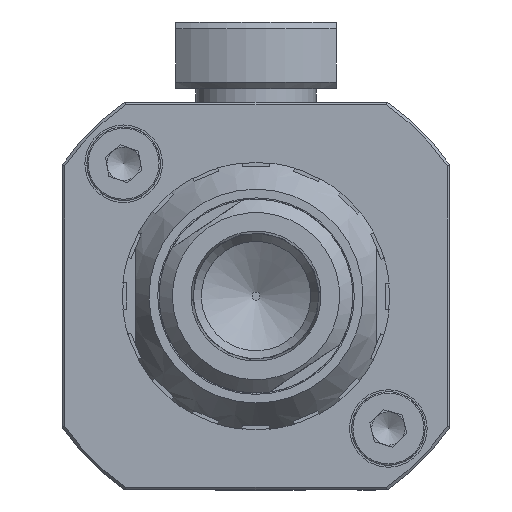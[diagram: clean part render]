
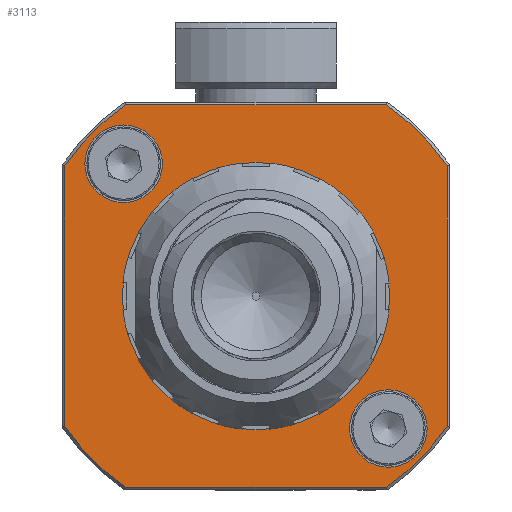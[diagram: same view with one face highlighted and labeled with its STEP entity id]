
A CAD part, front view. The second image highlights one B-rep face of the part: STEP entity #3113.
In plain terms, the highlighted planar face has unit normal (0, -1, 0).
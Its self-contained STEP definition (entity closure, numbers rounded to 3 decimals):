
#561 = VERTEX_POINT ( 'NONE', #32451 ) ;
#1105 = VECTOR ( 'NONE', #5140, 1000. ) ;
#1160 = VERTEX_POINT ( 'NONE', #6792 ) ;
#1672 = LINE ( 'NONE', #12391, #10114 ) ;
#1845 = AXIS2_PLACEMENT_3D ( 'NONE', #15559, #21187, #34374 ) ;
#1916 = CARTESIAN_POINT ( 'NONE',  ( -11.501, -115.979, 359.867 ) ) ;
#1973 = FACE_BOUND ( 'NONE', #23909, .T. ) ;
#2094 = CARTESIAN_POINT ( 'NONE',  ( -21.401, -115.979, 369.766 ) ) ;
#2135 = DIRECTION ( 'NONE',  ( -1., 0., 0. ) ) ;
#3113 = ADVANCED_FACE ( 'NONE', ( #1973, #13365, #34125, #15652 ), #7590, .F. ) ;
#3538 = CIRCLE ( 'NONE', #10807, 17.3 ) ;
#3945 = AXIS2_PLACEMENT_3D ( 'NONE', #2094, #10805, #21542 ) ;
#4745 = VERTEX_POINT ( 'NONE', #20336 ) ;
#4931 = ORIENTED_EDGE ( 'NONE', *, *, #13823, .F. ) ;
#5140 = DIRECTION ( 'NONE',  ( 0., 0., 1. ) ) ;
#5646 = CIRCLE ( 'NONE', #29221, 17.3 ) ;
#5703 = LINE ( 'NONE', #13929, #12270 ) ;
#6381 = CARTESIAN_POINT ( 'NONE',  ( -7.101, -115.979, 360.03 ) ) ;
#6640 = CARTESIAN_POINT ( 'NONE',  ( -34.2, -115.979, 379.666 ) ) ;
#6792 = CARTESIAN_POINT ( 'NONE',  ( -11.401, -115.979, 369.766 ) ) ;
#6869 = CARTESIAN_POINT ( 'NONE',  ( -11.603, -115.979, 384.066 ) ) ;
#6920 = CARTESIAN_POINT ( 'NONE',  ( -21.401, -115.979, 369.766 ) ) ;
#7025 = DIRECTION ( 'NONE',  ( -1., 0., 0. ) ) ;
#7278 = CARTESIAN_POINT ( 'NONE',  ( -31.3, -115.979, 379.666 ) ) ;
#7416 = DIRECTION ( 'NONE',  ( 0., 1., 0. ) ) ;
#7590 = PLANE ( 'NONE',  #11436 ) ;
#7796 = CIRCLE ( 'NONE', #22385, 2.9 ) ;
#8135 = DIRECTION ( 'NONE',  ( 0., 1., 0. ) ) ;
#9228 = EDGE_CURVE ( 'NONE', #23120, #23120, #7796, .T. ) ;
#9294 = EDGE_LOOP ( 'NONE', ( #18216 ) ) ;
#10114 = VECTOR ( 'NONE', #33831, 1000. ) ;
#10202 = EDGE_CURVE ( 'NONE', #1160, #1160, #16992, .T. ) ;
#10805 = DIRECTION ( 'NONE',  ( 0., 1., 0. ) ) ;
#10807 = AXIS2_PLACEMENT_3D ( 'NONE', #21153, #17816, #31868 ) ;
#11119 = DIRECTION ( 'NONE',  ( 1., 0., 0. ) ) ;
#11436 = AXIS2_PLACEMENT_3D ( 'NONE', #31494, #7416, #2135 ) ;
#11551 = EDGE_CURVE ( 'NONE', #30662, #561, #33745, .T. ) ;
#11596 = EDGE_LOOP ( 'NONE', ( #24034 ) ) ;
#12047 = VERTEX_POINT ( 'NONE', #22111 ) ;
#12121 = DIRECTION ( 'NONE',  ( -1., 0., 0. ) ) ;
#12270 = VECTOR ( 'NONE', #11119, 1000. ) ;
#12391 = CARTESIAN_POINT ( 'NONE',  ( -35.701, -115.979, 379.564 ) ) ;
#12873 = DIRECTION ( 'NONE',  ( 0., 1., 0. ) ) ;
#12952 = ORIENTED_EDGE ( 'NONE', *, *, #11551, .T. ) ;
#13058 = DIRECTION ( 'NONE',  ( 0., 1., 0. ) ) ;
#13112 = ORIENTED_EDGE ( 'NONE', *, *, #27881, .F. ) ;
#13251 = ORIENTED_EDGE ( 'NONE', *, *, #30646, .F. ) ;
#13365 = FACE_BOUND ( 'NONE', #11596, .T. ) ;
#13823 = EDGE_CURVE ( 'NONE', #27056, #561, #5646, .T. ) ;
#13929 = CARTESIAN_POINT ( 'NONE',  ( -11.603, -115.979, 355.466 ) ) ;
#14370 = VERTEX_POINT ( 'NONE', #6381 ) ;
#15384 = CARTESIAN_POINT ( 'NONE',  ( -31.138, -115.979, 355.466 ) ) ;
#15559 = CARTESIAN_POINT ( 'NONE',  ( -21.401, -115.979, 369.766 ) ) ;
#15652 = FACE_OUTER_BOUND ( 'NONE', #29324, .T. ) ;
#15655 = LINE ( 'NONE', #32188, #1105 ) ;
#16031 = ORIENTED_EDGE ( 'NONE', *, *, #32084, .T. ) ;
#16992 = CIRCLE ( 'NONE', #1845, 10. ) ;
#17098 = CARTESIAN_POINT ( 'NONE',  ( -35.701, -115.979, 379.503 ) ) ;
#17300 = CARTESIAN_POINT ( 'NONE',  ( -35.701, -115.979, 360.03 ) ) ;
#17816 = DIRECTION ( 'NONE',  ( 0., 1., 0. ) ) ;
#18216 = ORIENTED_EDGE ( 'NONE', *, *, #20030, .T. ) ;
#19048 = CIRCLE ( 'NONE', #28606, 17.3 ) ;
#19250 = VECTOR ( 'NONE', #12121, 1000. ) ;
#19849 = CIRCLE ( 'NONE', #22655, 2.9 ) ;
#20030 = EDGE_CURVE ( 'NONE', #22613, #22613, #19849, .T. ) ;
#20336 = CARTESIAN_POINT ( 'NONE',  ( -11.664, -115.979, 355.466 ) ) ;
#21153 = CARTESIAN_POINT ( 'NONE',  ( -21.401, -115.979, 369.766 ) ) ;
#21187 = DIRECTION ( 'NONE',  ( 0., -1., 0. ) ) ;
#21542 = DIRECTION ( 'NONE',  ( -1., 0., 0. ) ) ;
#21728 = EDGE_CURVE ( 'NONE', #14370, #4745, #3538, .T. ) ;
#22111 = CARTESIAN_POINT ( 'NONE',  ( -7.101, -115.979, 379.503 ) ) ;
#22385 = AXIS2_PLACEMENT_3D ( 'NONE', #1916, #31097, #7025 ) ;
#22613 = VERTEX_POINT ( 'NONE', #6640 ) ;
#22655 = AXIS2_PLACEMENT_3D ( 'NONE', #7278, #13058, #23786 ) ;
#22933 = CARTESIAN_POINT ( 'NONE',  ( -14.401, -115.979, 359.867 ) ) ;
#23077 = CARTESIAN_POINT ( 'NONE',  ( -11.664, -115.979, 384.066 ) ) ;
#23120 = VERTEX_POINT ( 'NONE', #22933 ) ;
#23583 = ORIENTED_EDGE ( 'NONE', *, *, #33698, .T. ) ;
#23786 = DIRECTION ( 'NONE',  ( -1., 0., 0. ) ) ;
#23909 = EDGE_LOOP ( 'NONE', ( #27069 ) ) ;
#24034 = ORIENTED_EDGE ( 'NONE', *, *, #9228, .T. ) ;
#25218 = VERTEX_POINT ( 'NONE', #15384 ) ;
#25264 = CIRCLE ( 'NONE', #3945, 17.3 ) ;
#26232 = DIRECTION ( 'NONE',  ( -1., 0., 0. ) ) ;
#26427 = ORIENTED_EDGE ( 'NONE', *, *, #28920, .T. ) ;
#26575 = DIRECTION ( 'NONE',  ( -1., 0., 0. ) ) ;
#27056 = VERTEX_POINT ( 'NONE', #17098 ) ;
#27069 = ORIENTED_EDGE ( 'NONE', *, *, #10202, .F. ) ;
#27881 = EDGE_CURVE ( 'NONE', #30662, #12047, #25264, .T. ) ;
#28187 = VERTEX_POINT ( 'NONE', #17300 ) ;
#28606 = AXIS2_PLACEMENT_3D ( 'NONE', #6920, #12873, #26232 ) ;
#28920 = EDGE_CURVE ( 'NONE', #25218, #4745, #5703, .T. ) ;
#29221 = AXIS2_PLACEMENT_3D ( 'NONE', #32201, #8135, #26575 ) ;
#29324 = EDGE_LOOP ( 'NONE', ( #26427, #30074, #16031, #13112, #12952, #4931, #23583, #13251 ) ) ;
#30074 = ORIENTED_EDGE ( 'NONE', *, *, #21728, .F. ) ;
#30646 = EDGE_CURVE ( 'NONE', #25218, #28187, #19048, .T. ) ;
#30662 = VERTEX_POINT ( 'NONE', #23077 ) ;
#31097 = DIRECTION ( 'NONE',  ( 0., 1., 0. ) ) ;
#31494 = CARTESIAN_POINT ( 'NONE',  ( -21.401, -115.979, 369.766 ) ) ;
#31868 = DIRECTION ( 'NONE',  ( 0., 0., 1. ) ) ;
#32084 = EDGE_CURVE ( 'NONE', #14370, #12047, #15655, .T. ) ;
#32188 = CARTESIAN_POINT ( 'NONE',  ( -7.101, -115.979, 379.564 ) ) ;
#32201 = CARTESIAN_POINT ( 'NONE',  ( -21.401, -115.979, 369.766 ) ) ;
#32451 = CARTESIAN_POINT ( 'NONE',  ( -31.138, -115.979, 384.066 ) ) ;
#33698 = EDGE_CURVE ( 'NONE', #27056, #28187, #1672, .T. ) ;
#33745 = LINE ( 'NONE', #6869, #19250 ) ;
#33831 = DIRECTION ( 'NONE',  ( 0., 0., -1. ) ) ;
#34125 = FACE_BOUND ( 'NONE', #9294, .T. ) ;
#34374 = DIRECTION ( 'NONE',  ( 1., 0., 0. ) ) ;
